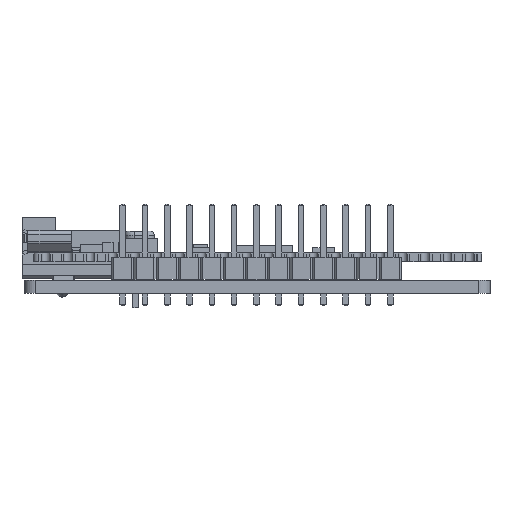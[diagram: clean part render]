
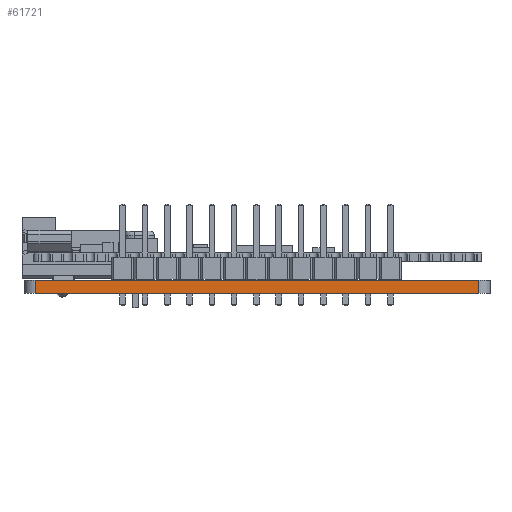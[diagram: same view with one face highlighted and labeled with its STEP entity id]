
A CAD part, left-side view. The second image highlights one B-rep face of the part: STEP entity #61721.
In plain terms, the highlighted planar face has unit normal (-1, 0, 0).
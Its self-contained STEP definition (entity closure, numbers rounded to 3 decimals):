
#59786 = VERTEX_POINT('',#59787);
#59787 = CARTESIAN_POINT('',(168.,-104.27,0.));
#59794 = EDGE_CURVE('',#59795,#59786,#59797,.T.);
#59795 = VERTEX_POINT('',#59796);
#59796 = CARTESIAN_POINT('',(168.,-154.73,0.));
#59797 = LINE('',#59798,#59799);
#59798 = CARTESIAN_POINT('',(168.,-154.73,0.));
#59799 = VECTOR('',#59800,1.);
#59800 = DIRECTION('',(0.,1.,0.));
#60740 = VERTEX_POINT('',#60741);
#60741 = CARTESIAN_POINT('',(168.,-104.27,1.51));
#60748 = EDGE_CURVE('',#60749,#60740,#60751,.T.);
#60749 = VERTEX_POINT('',#60750);
#60750 = CARTESIAN_POINT('',(168.,-154.73,1.51));
#60751 = LINE('',#60752,#60753);
#60752 = CARTESIAN_POINT('',(168.,-154.73,1.51));
#60753 = VECTOR('',#60754,1.);
#60754 = DIRECTION('',(0.,1.,0.));
#61691 = EDGE_CURVE('',#59786,#60740,#61692,.T.);
#61692 = LINE('',#61693,#61694);
#61693 = CARTESIAN_POINT('',(168.,-104.27,0.));
#61694 = VECTOR('',#61695,1.);
#61695 = DIRECTION('',(0.,0.,1.));
#61721 = ADVANCED_FACE('',(#61722),#61733,.T.);
#61722 = FACE_BOUND('',#61723,.T.);
#61723 = EDGE_LOOP('',(#61724,#61730,#61731,#61732));
#61724 = ORIENTED_EDGE('',*,*,#61725,.T.);
#61725 = EDGE_CURVE('',#59795,#60749,#61726,.T.);
#61726 = LINE('',#61727,#61728);
#61727 = CARTESIAN_POINT('',(168.,-154.73,0.));
#61728 = VECTOR('',#61729,1.);
#61729 = DIRECTION('',(0.,0.,1.));
#61730 = ORIENTED_EDGE('',*,*,#60748,.T.);
#61731 = ORIENTED_EDGE('',*,*,#61691,.F.);
#61732 = ORIENTED_EDGE('',*,*,#59794,.F.);
#61733 = PLANE('',#61734);
#61734 = AXIS2_PLACEMENT_3D('',#61735,#61736,#61737);
#61735 = CARTESIAN_POINT('',(168.,-154.73,0.));
#61736 = DIRECTION('',(-1.,0.,0.));
#61737 = DIRECTION('',(0.,1.,0.));
